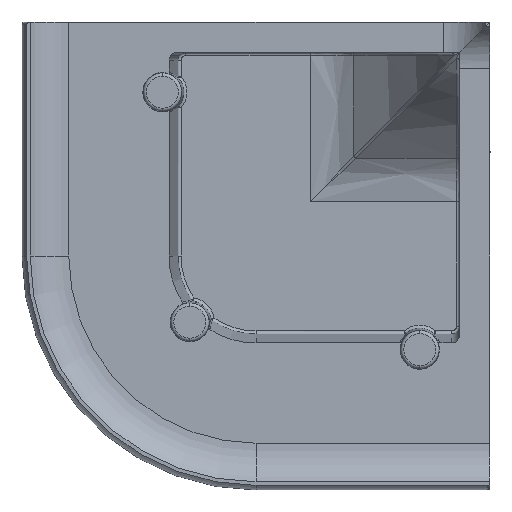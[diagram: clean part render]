
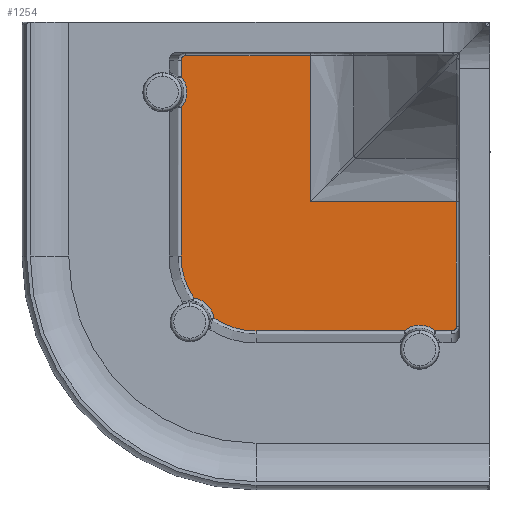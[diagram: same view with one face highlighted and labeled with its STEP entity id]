
A CAD part, front view. The second image highlights one B-rep face of the part: STEP entity #1254.
In plain terms, the highlighted planar face has unit normal (0, -1, 0).
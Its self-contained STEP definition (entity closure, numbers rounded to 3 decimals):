
#65 = ORIENTED_EDGE ( 'NONE', *, *, #3932, .T. ) ;
#197 = VERTEX_POINT ( 'NONE', #354 ) ;
#277 = EDGE_CURVE ( 'NONE', #4126, #197, #4442, .T. ) ;
#312 = VECTOR ( 'NONE', #2422, 1000. ) ;
#346 = VERTEX_POINT ( 'NONE', #2313 ) ;
#354 = CARTESIAN_POINT ( 'NONE',  ( -7.002, 11.8, -8.78 ) ) ;
#373 = CARTESIAN_POINT ( 'NONE',  ( 6.989, 11.8, -26.432 ) ) ;
#384 = CIRCLE ( 'NONE', #3822, 1.568 ) ;
#444 = EDGE_CURVE ( 'NONE', #511, #1849, #455, .T. ) ;
#455 = LINE ( 'NONE', #1981, #1214 ) ;
#465 = AXIS2_PLACEMENT_3D ( 'NONE', #1675, #3191, #4000 ) ;
#511 = VERTEX_POINT ( 'NONE', #1390 ) ;
#524 = EDGE_CURVE ( 'NONE', #3947, #4708, #384, .T. ) ;
#595 = ORIENTED_EDGE ( 'NONE', *, *, #4838, .F. ) ;
#602 = CARTESIAN_POINT ( 'NONE',  ( -7.302, 11.8, -21.63 ) ) ;
#623 = CARTESIAN_POINT ( 'NONE',  ( -5.198, 11.8, -25.602 ) ) ;
#646 = CARTESIAN_POINT ( 'NONE',  ( -7.002, 11.8, -8.78 ) ) ;
#663 = CARTESIAN_POINT ( 'NONE',  ( -6.993, 11.8, -8.78 ) ) ;
#719 = ORIENTED_EDGE ( 'NONE', *, *, #3245, .T. ) ;
#754 = DIRECTION ( 'NONE',  ( 1., 0., 0. ) ) ;
#982 = CARTESIAN_POINT ( 'NONE',  ( -7.178, 11.8, -8.78 ) ) ;
#1002 = LINE ( 'NONE', #602, #2803 ) ;
#1037 = CARTESIAN_POINT ( 'NONE',  ( 9.011, 11.8, -26.432 ) ) ;
#1062 = DIRECTION ( 'NONE',  ( -1., 0., 0. ) ) ;
#1134 = ORIENTED_EDGE ( 'NONE', *, *, #2311, .T. ) ;
#1146 = EDGE_LOOP ( 'NONE', ( #1394, #1241, #2431, #595, #4794, #65, #4122, #1134, #719, #2191, #3495, #1219, #3302, #2981, #3837 ) ) ;
#1177 = DIRECTION ( 'NONE',  ( 1., 0., 0. ) ) ;
#1188 = CIRCLE ( 'NONE', #465, 1.568 ) ;
#1214 = VECTOR ( 'NONE', #1177, 1000. ) ;
#1219 = ORIENTED_EDGE ( 'NONE', *, *, #2959, .T. ) ;
#1221 = AXIS2_PLACEMENT_3D ( 'NONE', #3389, #3757, #1062 ) ;
#1241 = ORIENTED_EDGE ( 'NONE', *, *, #3923, .T. ) ;
#1254 = ADVANCED_FACE ( 'NONE', ( #2863 ), #4558, .F. ) ;
#1324 = VECTOR ( 'NONE', #2571, 1000. ) ;
#1350 = AXIS2_PLACEMENT_3D ( 'NONE', #2635, #3820, #3763 ) ;
#1390 = CARTESIAN_POINT ( 'NONE',  ( 0.976, 11.8, -18.154 ) ) ;
#1394 = ORIENTED_EDGE ( 'NONE', *, *, #4258, .T. ) ;
#1486 = DIRECTION ( 'NONE',  ( -1., 0., 0. ) ) ;
#1539 = VERTEX_POINT ( 'NONE', #1037 ) ;
#1617 = VECTOR ( 'NONE', #2682, 1000. ) ;
#1624 = EDGE_CURVE ( 'NONE', #4770, #3947, #1902, .T. ) ;
#1675 = CARTESIAN_POINT ( 'NONE',  ( 8., 11.8, -27.63 ) ) ;
#1686 = CARTESIAN_POINT ( 'NONE',  ( 10.226, 11.8, -26.432 ) ) ;
#1690 = EDGE_CURVE ( 'NONE', #2551, #1539, #1188, .T. ) ;
#1755 = CARTESIAN_POINT ( 'NONE',  ( -6.743, 11.8, -25.872 ) ) ;
#1849 = VERTEX_POINT ( 'NONE', #4333 ) ;
#1902 = CIRCLE ( 'NONE', #1221, 4.802 ) ;
#1973 =( BOUNDED_CURVE ( )  B_SPLINE_CURVE ( 3, ( #646, #982, #2555, #2541 ),
 .UNSPECIFIED., .F., .T. ) 
 B_SPLINE_CURVE_WITH_KNOTS ( ( 4, 4 ),
 ( 4.712, 6.283 ),
 .UNSPECIFIED. ) 
 CURVE ( )  GEOMETRIC_REPRESENTATION_ITEM ( )  RATIONAL_B_SPLINE_CURVE ( ( 1., 0.805, 0.805, 1. ) ) 
 REPRESENTATION_ITEM ( '' )  );
#1981 = CARTESIAN_POINT ( 'NONE',  ( -20.6, 11.8, -18.154 ) ) ;
#2151 = CARTESIAN_POINT ( 'NONE',  ( -7.302, 11.8, -21.63 ) ) ;
#2179 = DIRECTION ( 'NONE',  ( -1., 0., 0. ) ) ;
#2191 = ORIENTED_EDGE ( 'NONE', *, *, #1624, .T. ) ;
#2211 = CARTESIAN_POINT ( 'NONE',  ( 10.35, 11.8, -26.132 ) ) ;
#2311 = EDGE_CURVE ( 'NONE', #346, #2326, #2864, .T. ) ;
#2313 = CARTESIAN_POINT ( 'NONE',  ( -7.302, 11.8, -10.118 ) ) ;
#2326 = VERTEX_POINT ( 'NONE', #4639 ) ;
#2368 = CARTESIAN_POINT ( 'NONE',  ( -2.5, 11.8, -26.432 ) ) ;
#2422 = DIRECTION ( 'NONE',  ( 0., 0., -1. ) ) ;
#2431 = ORIENTED_EDGE ( 'NONE', *, *, #444, .F. ) ;
#2453 = LINE ( 'NONE', #2887, #2873 ) ;
#2457 = LINE ( 'NONE', #3048, #3362 ) ;
#2534 = DIRECTION ( 'NONE',  ( 0., 1., 0. ) ) ;
#2541 = CARTESIAN_POINT ( 'NONE',  ( -7.302, 11.8, -9.08 ) ) ;
#2551 = VERTEX_POINT ( 'NONE', #373 ) ;
#2555 = CARTESIAN_POINT ( 'NONE',  ( -7.302, 11.8, -8.904 ) ) ;
#2571 = DIRECTION ( 'NONE',  ( -1., 0., 0. ) ) ;
#2582 = CARTESIAN_POINT ( 'NONE',  ( 0.976, 11.8, -8.78 ) ) ;
#2635 = CARTESIAN_POINT ( 'NONE',  ( -2.5, 11.8, -21.63 ) ) ;
#2682 = DIRECTION ( 'NONE',  ( 0., 0., -1. ) ) ;
#2709 = AXIS2_PLACEMENT_3D ( 'NONE', #3005, #4562, #3815 ) ;
#2803 = VECTOR ( 'NONE', #3247, 1000. ) ;
#2812 = CARTESIAN_POINT ( 'NONE',  ( 0.976, 11.8, 0. ) ) ;
#2822 = VECTOR ( 'NONE', #3987, 1000. ) ;
#2863 = FACE_OUTER_BOUND ( 'NONE', #1146, .T. ) ;
#2864 = CIRCLE ( 'NONE', #2709, 1.568 ) ;
#2873 = VECTOR ( 'NONE', #4508, 1000. ) ;
#2887 = CARTESIAN_POINT ( 'NONE',  ( 7.014, 11.8, -26.432 ) ) ;
#2947 = CARTESIAN_POINT ( 'NONE',  ( 10.35, 11.8, -18.154 ) ) ;
#2959 = EDGE_CURVE ( 'NONE', #4708, #3085, #3106, .T. ) ;
#2981 = ORIENTED_EDGE ( 'NONE', *, *, #1690, .T. ) ;
#3005 = CARTESIAN_POINT ( 'NONE',  ( -8.5, 11.8, -11.13 ) ) ;
#3048 = CARTESIAN_POINT ( 'NONE',  ( 10.05, 11.8, -26.432 ) ) ;
#3059 = LINE ( 'NONE', #2947, #2822 ) ;
#3085 = VERTEX_POINT ( 'NONE', #2368 ) ;
#3106 = CIRCLE ( 'NONE', #1350, 4.802 ) ;
#3191 = DIRECTION ( 'NONE',  ( 0., 1., 0. ) ) ;
#3229 = CARTESIAN_POINT ( 'NONE',  ( 10.35, 11.8, -26.307 ) ) ;
#3238 = VERTEX_POINT ( 'NONE', #4782 ) ;
#3245 = EDGE_CURVE ( 'NONE', #2326, #4770, #1002, .T. ) ;
#3247 = DIRECTION ( 'NONE',  ( 0., 0., -1. ) ) ;
#3288 =( BOUNDED_CURVE ( )  B_SPLINE_CURVE ( 3, ( #3993, #1686, #3229, #4393 ),
 .UNSPECIFIED., .F., .T. ) 
 B_SPLINE_CURVE_WITH_KNOTS ( ( 4, 4 ),
 ( 0., 1.571 ),
 .UNSPECIFIED. ) 
 CURVE ( )  GEOMETRIC_REPRESENTATION_ITEM ( )  RATIONAL_B_SPLINE_CURVE ( ( 1., 0.805, 0.805, 1. ) ) 
 REPRESENTATION_ITEM ( '' )  );
#3302 = ORIENTED_EDGE ( 'NONE', *, *, #4448, .T. ) ;
#3309 = CARTESIAN_POINT ( 'NONE',  ( -6.472, 11.8, -24.328 ) ) ;
#3346 = CARTESIAN_POINT ( 'NONE',  ( -7.302, 11.8, -9.08 ) ) ;
#3362 = VECTOR ( 'NONE', #754, 1000. ) ;
#3389 = CARTESIAN_POINT ( 'NONE',  ( -2.5, 11.8, -21.63 ) ) ;
#3422 = VERTEX_POINT ( 'NONE', #3346 ) ;
#3495 = ORIENTED_EDGE ( 'NONE', *, *, #524, .T. ) ;
#3553 = EDGE_CURVE ( 'NONE', #1539, #3238, #2457, .T. ) ;
#3587 = LINE ( 'NONE', #2812, #312 ) ;
#3621 = VERTEX_POINT ( 'NONE', #2211 ) ;
#3713 = LINE ( 'NONE', #4197, #1617 ) ;
#3757 = DIRECTION ( 'NONE',  ( 0., -1., 0. ) ) ;
#3763 = DIRECTION ( 'NONE',  ( -1., 0., 0. ) ) ;
#3815 = DIRECTION ( 'NONE',  ( -1., 0., 0. ) ) ;
#3820 = DIRECTION ( 'NONE',  ( 0., -1., 0. ) ) ;
#3822 = AXIS2_PLACEMENT_3D ( 'NONE', #1755, #2534, #2179 ) ;
#3837 = ORIENTED_EDGE ( 'NONE', *, *, #3553, .T. ) ;
#3923 = EDGE_CURVE ( 'NONE', #3621, #1849, #3059, .T. ) ;
#3932 = EDGE_CURVE ( 'NONE', #197, #3422, #1973, .T. ) ;
#3947 = VERTEX_POINT ( 'NONE', #3309 ) ;
#3987 = DIRECTION ( 'NONE',  ( 0., 0., 1. ) ) ;
#3993 = CARTESIAN_POINT ( 'NONE',  ( 10.05, 11.8, -26.432 ) ) ;
#4000 = DIRECTION ( 'NONE',  ( -1., 0., 0. ) ) ;
#4073 = AXIS2_PLACEMENT_3D ( 'NONE', #4522, #4491, #1486 ) ;
#4122 = ORIENTED_EDGE ( 'NONE', *, *, #4174, .T. ) ;
#4126 = VERTEX_POINT ( 'NONE', #2582 ) ;
#4174 = EDGE_CURVE ( 'NONE', #3422, #346, #3713, .T. ) ;
#4197 = CARTESIAN_POINT ( 'NONE',  ( -7.302, 11.8, -10.144 ) ) ;
#4258 = EDGE_CURVE ( 'NONE', #3238, #3621, #3288, .T. ) ;
#4333 = CARTESIAN_POINT ( 'NONE',  ( 10.35, 11.8, -18.154 ) ) ;
#4393 = CARTESIAN_POINT ( 'NONE',  ( 10.35, 11.8, -26.132 ) ) ;
#4442 = LINE ( 'NONE', #663, #1324 ) ;
#4448 = EDGE_CURVE ( 'NONE', #3085, #2551, #2453, .T. ) ;
#4491 = DIRECTION ( 'NONE',  ( 0., 1., 0. ) ) ;
#4508 = DIRECTION ( 'NONE',  ( 1., 0., 0. ) ) ;
#4522 = CARTESIAN_POINT ( 'NONE',  ( 0.976, 11.8, 0. ) ) ;
#4558 = PLANE ( 'NONE',  #4073 ) ;
#4562 = DIRECTION ( 'NONE',  ( 0., 1., 0. ) ) ;
#4639 = CARTESIAN_POINT ( 'NONE',  ( -7.302, 11.8, -12.141 ) ) ;
#4708 = VERTEX_POINT ( 'NONE', #623 ) ;
#4770 = VERTEX_POINT ( 'NONE', #2151 ) ;
#4782 = CARTESIAN_POINT ( 'NONE',  ( 10.05, 11.8, -26.432 ) ) ;
#4794 = ORIENTED_EDGE ( 'NONE', *, *, #277, .T. ) ;
#4838 = EDGE_CURVE ( 'NONE', #4126, #511, #3587, .T. ) ;
